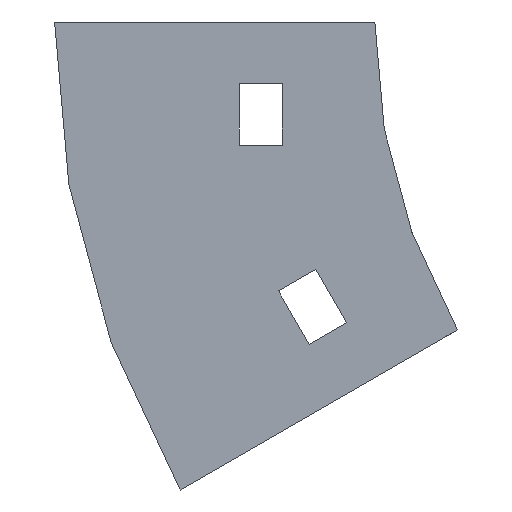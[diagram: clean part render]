
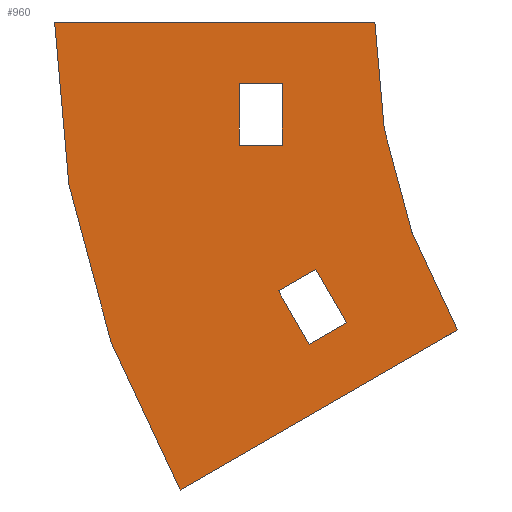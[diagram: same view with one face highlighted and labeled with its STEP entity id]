
A CAD part, left-side view. The second image highlights one B-rep face of the part: STEP entity #960.
In plain terms, the highlighted planar face has unit normal (-1, 0, 0).
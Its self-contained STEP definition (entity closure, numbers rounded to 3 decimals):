
#18 = LINE ( 'NONE', #355, #197 ) ;
#23 = CARTESIAN_POINT ( 'NONE',  ( -252., 22., -10. ) ) ;
#24 = CARTESIAN_POINT ( 'NONE',  ( -252., -100., 0. ) ) ;
#39 = DIRECTION ( 'NONE',  ( 0., 0., 1. ) ) ;
#41 = DIRECTION ( 'NONE',  ( 0., 0., 1. ) ) ;
#50 = VERTEX_POINT ( 'NONE', #131 ) ;
#67 = LINE ( 'NONE', #609, #1086 ) ;
#73 = CARTESIAN_POINT ( 'NONE',  ( -252., 22., -20. ) ) ;
#78 = EDGE_CURVE ( 'NONE', #1151, #418, #393, .T. ) ;
#96 = CARTESIAN_POINT ( 'NONE',  ( -252., 0., 0. ) ) ;
#102 = VERTEX_POINT ( 'NONE', #96 ) ;
#108 = ORIENTED_EDGE ( 'NONE', *, *, #706, .T. ) ;
#121 = FACE_BOUND ( 'NONE', #895, .T. ) ;
#123 = DIRECTION ( 'NONE',  ( 0., 0., -1. ) ) ;
#131 = CARTESIAN_POINT ( 'NONE',  ( -252., 22., -20. ) ) ;
#141 = AXIS2_PLACEMENT_3D ( 'NONE', #1085, #471, #39 ) ;
#171 = ORIENTED_EDGE ( 'NONE', *, *, #693, .F. ) ;
#189 = CARTESIAN_POINT ( 'NONE',  ( -252., 22., -10. ) ) ;
#193 = DIRECTION ( 'NONE',  ( 0., -1., 0. ) ) ;
#194 = VECTOR ( 'NONE', #1129, 1000. ) ;
#197 = VECTOR ( 'NONE', #291, 1000. ) ;
#218 = AXIS2_PLACEMENT_3D ( 'NONE', #24, #810, #1067 ) ;
#262 = ORIENTED_EDGE ( 'NONE', *, *, #678, .T. ) ;
#272 = CARTESIAN_POINT ( 'NONE',  ( -252., 9.593, -40.179 ) ) ;
#281 = EDGE_LOOP ( 'NONE', ( #948, #171, #1115, #1102 ) ) ;
#282 = VERTEX_POINT ( 'NONE', #23 ) ;
#291 = DIRECTION ( 'NONE',  ( 0., 0.5, 0.866 ) ) ;
#334 = EDGE_CURVE ( 'NONE', #590, #102, #475, .T. ) ;
#335 = VERTEX_POINT ( 'NONE', #897 ) ;
#355 = CARTESIAN_POINT ( 'NONE',  ( -252., 4.593, -48.84 ) ) ;
#367 = CARTESIAN_POINT ( 'NONE',  ( -252., 4.593, -48.84 ) ) ;
#379 = VECTOR ( 'NONE', #529, 1000. ) ;
#393 = LINE ( 'NONE', #765, #758 ) ;
#404 = LINE ( 'NONE', #503, #194 ) ;
#418 = VERTEX_POINT ( 'NONE', #481 ) ;
#424 = LINE ( 'NONE', #945, #657 ) ;
#427 = DIRECTION ( 'NONE',  ( 0., -0.866, 0.5 ) ) ;
#434 = LINE ( 'NONE', #73, #1022 ) ;
#453 = CIRCLE ( 'NONE', #141, 152. ) ;
#454 = ORIENTED_EDGE ( 'NONE', *, *, #944, .F. ) ;
#463 = DIRECTION ( 'NONE',  ( 0., 0.866, -0.5 ) ) ;
#464 = FACE_BOUND ( 'NONE', #281, .T. ) ;
#471 = DIRECTION ( 'NONE',  ( 1., 0., 0. ) ) ;
#475 = LINE ( 'NONE', #981, #510 ) ;
#476 = VECTOR ( 'NONE', #463, 1000. ) ;
#481 = CARTESIAN_POINT ( 'NONE',  ( -252., 31.636, -76. ) ) ;
#503 = CARTESIAN_POINT ( 'NONE',  ( -252., 10.655, -52.34 ) ) ;
#510 = VECTOR ( 'NONE', #193, 1000. ) ;
#519 = DIRECTION ( 'NONE',  ( 0., 0., 1. ) ) ;
#529 = DIRECTION ( 'NONE',  ( 0., -1., 0. ) ) ;
#536 = CARTESIAN_POINT ( 'NONE',  ( -252., -100., 0. ) ) ;
#542 = LINE ( 'NONE', #743, #476 ) ;
#567 = ORIENTED_EDGE ( 'NONE', *, *, #78, .F. ) ;
#590 = VERTEX_POINT ( 'NONE', #846 ) ;
#595 = CARTESIAN_POINT ( 'NONE',  ( -252., 15., -20. ) ) ;
#609 = CARTESIAN_POINT ( 'NONE',  ( -252., 10.655, -52.34 ) ) ;
#614 = AXIS2_PLACEMENT_3D ( 'NONE', #536, #817, #41 ) ;
#638 = VERTEX_POINT ( 'NONE', #757 ) ;
#657 = VECTOR ( 'NONE', #519, 1000. ) ;
#658 = EDGE_CURVE ( 'NONE', #638, #669, #404, .T. ) ;
#665 = VERTEX_POINT ( 'NONE', #595 ) ;
#669 = VERTEX_POINT ( 'NONE', #880 ) ;
#678 = EDGE_CURVE ( 'NONE', #50, #282, #424, .T. ) ;
#693 = EDGE_CURVE ( 'NONE', #669, #1105, #67, .T. ) ;
#696 = CIRCLE ( 'NONE', #218, 100. ) ;
#706 = EDGE_CURVE ( 'NONE', #665, #50, #434, .T. ) ;
#743 = CARTESIAN_POINT ( 'NONE',  ( -252., 15.655, -43.679 ) ) ;
#750 = ORIENTED_EDGE ( 'NONE', *, *, #909, .T. ) ;
#757 = CARTESIAN_POINT ( 'NONE',  ( -252., 15.655, -43.679 ) ) ;
#758 = VECTOR ( 'NONE', #1116, 1000. ) ;
#765 = CARTESIAN_POINT ( 'NONE',  ( -252., -13.397, -50. ) ) ;
#784 = DIRECTION ( 'NONE',  ( 0., 1., 0. ) ) ;
#787 = EDGE_LOOP ( 'NONE', ( #927, #1027, #454, #567 ) ) ;
#810 = DIRECTION ( 'NONE',  ( -1., 0., 0. ) ) ;
#817 = DIRECTION ( 'NONE',  ( -1., 0., 0. ) ) ;
#824 = EDGE_CURVE ( 'NONE', #1095, #638, #542, .T. ) ;
#832 = ORIENTED_EDGE ( 'NONE', *, *, #995, .T. ) ;
#846 = CARTESIAN_POINT ( 'NONE',  ( -252., 52., 0. ) ) ;
#868 = EDGE_CURVE ( 'NONE', #102, #1151, #696, .T. ) ;
#871 = EDGE_CURVE ( 'NONE', #1105, #1095, #18, .T. ) ;
#880 = CARTESIAN_POINT ( 'NONE',  ( -252., 10.655, -52.34 ) ) ;
#895 = EDGE_LOOP ( 'NONE', ( #750, #832, #108, #262 ) ) ;
#897 = CARTESIAN_POINT ( 'NONE',  ( -252., 15., -10. ) ) ;
#902 = CARTESIAN_POINT ( 'NONE',  ( -252., -13.397, -50. ) ) ;
#909 = EDGE_CURVE ( 'NONE', #282, #335, #1078, .T. ) ;
#911 = FACE_OUTER_BOUND ( 'NONE', #787, .T. ) ;
#913 = PLANE ( 'NONE',  #614 ) ;
#927 = ORIENTED_EDGE ( 'NONE', *, *, #868, .F. ) ;
#944 = EDGE_CURVE ( 'NONE', #418, #590, #453, .T. ) ;
#945 = CARTESIAN_POINT ( 'NONE',  ( -252., 22., -10. ) ) ;
#948 = ORIENTED_EDGE ( 'NONE', *, *, #871, .F. ) ;
#960 = ADVANCED_FACE ( 'NONE', ( #121, #911, #464 ), #913, .T. ) ;
#981 = CARTESIAN_POINT ( 'NONE',  ( -252., 52., 0. ) ) ;
#986 = LINE ( 'NONE', #1080, #1090 ) ;
#995 = EDGE_CURVE ( 'NONE', #335, #665, #986, .T. ) ;
#1022 = VECTOR ( 'NONE', #784, 1000. ) ;
#1027 = ORIENTED_EDGE ( 'NONE', *, *, #334, .F. ) ;
#1067 = DIRECTION ( 'NONE',  ( 0., 0., 1. ) ) ;
#1078 = LINE ( 'NONE', #189, #379 ) ;
#1080 = CARTESIAN_POINT ( 'NONE',  ( -252., 15., -10. ) ) ;
#1085 = CARTESIAN_POINT ( 'NONE',  ( -252., -100., 0. ) ) ;
#1086 = VECTOR ( 'NONE', #427, 1000. ) ;
#1090 = VECTOR ( 'NONE', #123, 1000. ) ;
#1095 = VERTEX_POINT ( 'NONE', #272 ) ;
#1102 = ORIENTED_EDGE ( 'NONE', *, *, #824, .F. ) ;
#1105 = VERTEX_POINT ( 'NONE', #367 ) ;
#1115 = ORIENTED_EDGE ( 'NONE', *, *, #658, .F. ) ;
#1116 = DIRECTION ( 'NONE',  ( 0., 0.866, -0.5 ) ) ;
#1129 = DIRECTION ( 'NONE',  ( 0., -0.5, -0.866 ) ) ;
#1151 = VERTEX_POINT ( 'NONE', #902 ) ;
